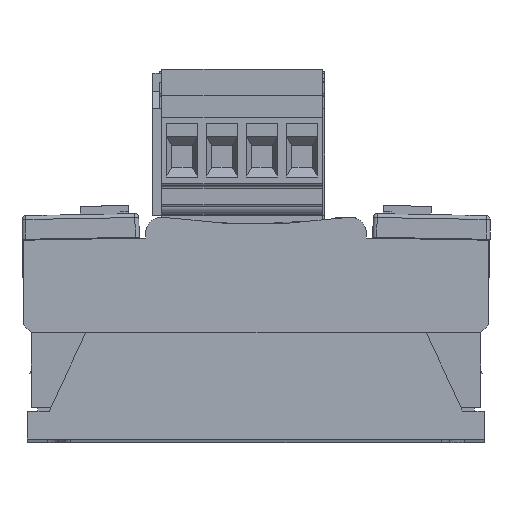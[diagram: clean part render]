
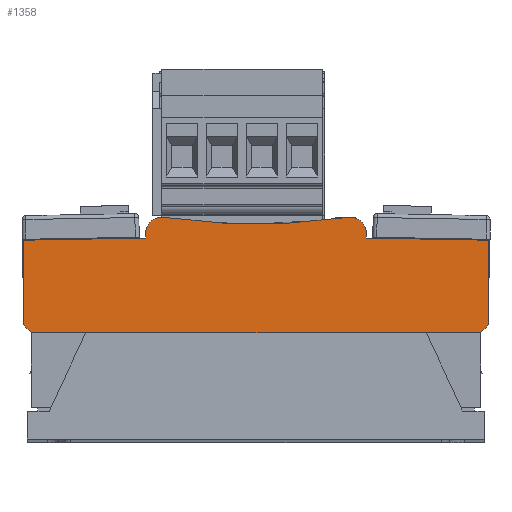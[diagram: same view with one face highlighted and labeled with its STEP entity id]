
A CAD part, left-side view. The second image highlights one B-rep face of the part: STEP entity #1358.
In plain terms, the highlighted planar face has unit normal (-1, 0, 0.018).
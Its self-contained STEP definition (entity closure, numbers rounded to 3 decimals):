
#1236=CARTESIAN_POINT('',(-22.4,-28.508,14.));
#1237=DIRECTION('',(-1.,0.,0.017));
#1238=DIRECTION('',(-0.017,0.,-1.));
#1239=AXIS2_PLACEMENT_3D('',#1236,#1237,#1238);
#1240=PLANE('',#1239);
#1241=CARTESIAN_POINT('',(-22.191,13.992,26.));
#1242=VERTEX_POINT('',#1241);
#1243=CARTESIAN_POINT('',(-22.195,29.492,25.729));
#1244=VERTEX_POINT('',#1243);
#1245=CARTESIAN_POINT('',(-22.191,13.992,26.));
#1246=DIRECTION('',(0.,1.,-0.017));
#1247=VECTOR('',#1246,15.502);
#1248=LINE('',#1245,#1247);
#1249=EDGE_CURVE('',#1242,#1244,#1248,.T.);
#1250=ORIENTED_EDGE('',*,*,#1249,.T.);
#1251=CARTESIAN_POINT('',(-22.383,29.492,15.));
#1252=VERTEX_POINT('',#1251);
#1253=CARTESIAN_POINT('',(-22.195,29.492,25.729));
#1254=DIRECTION('',(-0.017,0.0,-1.));
#1255=VECTOR('',#1254,10.731);
#1256=LINE('',#1253,#1255);
#1257=EDGE_CURVE('',#1244,#1252,#1256,.T.);
#1258=ORIENTED_EDGE('',*,*,#1257,.T.);
#1259=CARTESIAN_POINT('',(-22.4,28.492,14.));
#1260=VERTEX_POINT('',#1259);
#1261=CARTESIAN_POINT('',(-22.4,28.492,14.0));
#1262=DIRECTION('',(0.012,0.707,0.707));
#1263=VECTOR('',#1262,1.414);
#1264=LINE('',#1261,#1263);
#1265=EDGE_CURVE('',#1260,#1252,#1264,.T.);
#1266=ORIENTED_EDGE('',*,*,#1265,.F.);
#1267=CARTESIAN_POINT('',(-22.4,21.592,14.));
#1268=VERTEX_POINT('',#1267);
#1269=CARTESIAN_POINT('',(-22.4,21.592,14.));
#1270=DIRECTION('',(0.0,1.0,0.0));
#1271=VECTOR('',#1270,6.9);
#1272=LINE('',#1269,#1271);
#1273=EDGE_CURVE('',#1268,#1260,#1272,.T.);
#1274=ORIENTED_EDGE('',*,*,#1273,.F.);
#1275=CARTESIAN_POINT('',(-22.4,-21.608,14.));
#1276=VERTEX_POINT('',#1275);
#1277=CARTESIAN_POINT('',(-22.4,-21.608,14.));
#1278=DIRECTION('',(0.0,1.0,0.0));
#1279=VECTOR('',#1278,43.2);
#1280=LINE('',#1277,#1279);
#1281=EDGE_CURVE('',#1276,#1268,#1280,.T.);
#1282=ORIENTED_EDGE('',*,*,#1281,.F.);
#1283=CARTESIAN_POINT('',(-22.4,-28.508,14.));
#1284=VERTEX_POINT('',#1283);
#1285=CARTESIAN_POINT('',(-22.4,-28.508,14.));
#1286=DIRECTION('',(0.0,1.0,0.0));
#1287=VECTOR('',#1286,6.9);
#1288=LINE('',#1285,#1287);
#1289=EDGE_CURVE('',#1284,#1276,#1288,.T.);
#1290=ORIENTED_EDGE('',*,*,#1289,.F.);
#1291=CARTESIAN_POINT('',(-22.383,-29.508,15.));
#1292=VERTEX_POINT('',#1291);
#1293=CARTESIAN_POINT('',(-22.383,-29.508,15.));
#1294=DIRECTION('',(-0.012,0.707,-0.707));
#1295=VECTOR('',#1294,1.414);
#1296=LINE('',#1293,#1295);
#1297=EDGE_CURVE('',#1292,#1284,#1296,.T.);
#1298=ORIENTED_EDGE('',*,*,#1297,.F.);
#1299=CARTESIAN_POINT('',(-22.195,-29.508,25.729));
#1300=VERTEX_POINT('',#1299);
#1301=CARTESIAN_POINT('',(-22.383,-29.508,15.));
#1302=DIRECTION('',(0.017,0.0,1.));
#1303=VECTOR('',#1302,10.731);
#1304=LINE('',#1301,#1303);
#1305=EDGE_CURVE('',#1292,#1300,#1304,.T.);
#1306=ORIENTED_EDGE('',*,*,#1305,.T.);
#1307=CARTESIAN_POINT('',(-22.191,-14.008,26.));
#1308=VERTEX_POINT('',#1307);
#1309=CARTESIAN_POINT('',(-22.195,-29.508,25.729));
#1310=DIRECTION('',(0.,1.,0.017));
#1311=VECTOR('',#1310,15.502);
#1312=LINE('',#1309,#1311);
#1313=EDGE_CURVE('',#1300,#1308,#1312,.T.);
#1314=ORIENTED_EDGE('',*,*,#1313,.T.);
#1315=CARTESIAN_POINT('',(-22.178,-13.996,26.691));
#1316=VERTEX_POINT('',#1315);
#1317=CARTESIAN_POINT('',(-22.191,-14.008,26.));
#1318=DIRECTION('',(0.017,0.017,1.));
#1319=VECTOR('',#1318,0.691);
#1320=LINE('',#1317,#1319);
#1321=EDGE_CURVE('',#1308,#1316,#1320,.T.);
#1322=ORIENTED_EDGE('',*,*,#1321,.T.);
#1323=CARTESIAN_POINT('',(-22.145,-11.704,28.634));
#1324=VERTEX_POINT('',#1323);
#1325=CARTESIAN_POINT('',(-22.179,-11.996,26.656));
#1326=DIRECTION('',(-1.,0.,0.017));
#1327=DIRECTION('',(0.017,0.,1.));
#1328=AXIS2_PLACEMENT_3D('',#1325,#1326,#1327);
#1329=ELLIPSE('',#1328,2.,2.);
#1330=EDGE_CURVE('',#1324,#1316,#1329,.F.);
#1331=ORIENTED_EDGE('',*,*,#1330,.F.);
#1332=CARTESIAN_POINT('',(-22.145,11.688,28.634));
#1333=VERTEX_POINT('',#1332);
#1334=CARTESIAN_POINT('',(-20.763,-0.008,107.775));
#1335=DIRECTION('',(1.,0.,-0.017));
#1336=DIRECTION('',(-0.017,0.,-1.));
#1337=AXIS2_PLACEMENT_3D('',#1334,#1335,#1336);
#1338=ELLIPSE('',#1337,80.012,80.0);
#1339=EDGE_CURVE('',#1324,#1333,#1338,.T.);
#1340=ORIENTED_EDGE('',*,*,#1339,.T.);
#1341=CARTESIAN_POINT('',(-22.178,13.98,26.691));
#1342=VERTEX_POINT('',#1341);
#1343=CARTESIAN_POINT('',(-22.179,11.98,26.656));
#1344=DIRECTION('',(-1.,0.,0.017));
#1345=DIRECTION('',(0.017,0.,1.));
#1346=AXIS2_PLACEMENT_3D('',#1343,#1344,#1345);
#1347=ELLIPSE('',#1346,2.,2.0);
#1348=EDGE_CURVE('',#1342,#1333,#1347,.F.);
#1349=ORIENTED_EDGE('',*,*,#1348,.F.);
#1350=CARTESIAN_POINT('',(-22.178,13.98,26.691));
#1351=DIRECTION('',(-0.017,0.017,-1.));
#1352=VECTOR('',#1351,0.691);
#1353=LINE('',#1350,#1352);
#1354=EDGE_CURVE('',#1342,#1242,#1353,.T.);
#1355=ORIENTED_EDGE('',*,*,#1354,.T.);
#1356=EDGE_LOOP('',(#1250,#1258,#1266,#1274,#1282,#1290,#1298,#1306,#1314,#1322,#1331,#1340,#1349,#1355));
#1357=FACE_OUTER_BOUND('',#1356,.T.);
#1358=ADVANCED_FACE('',(#1357),#1240,.T.);
